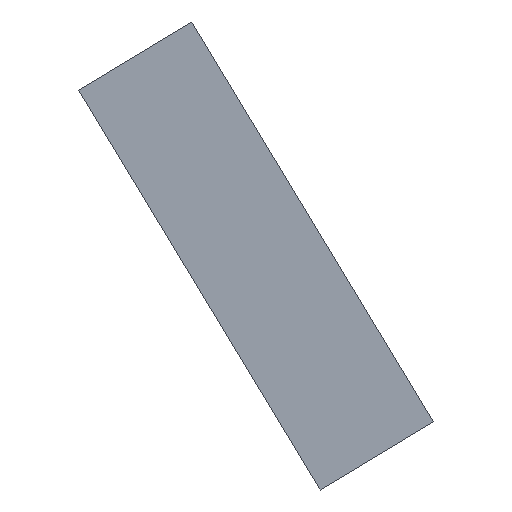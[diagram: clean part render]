
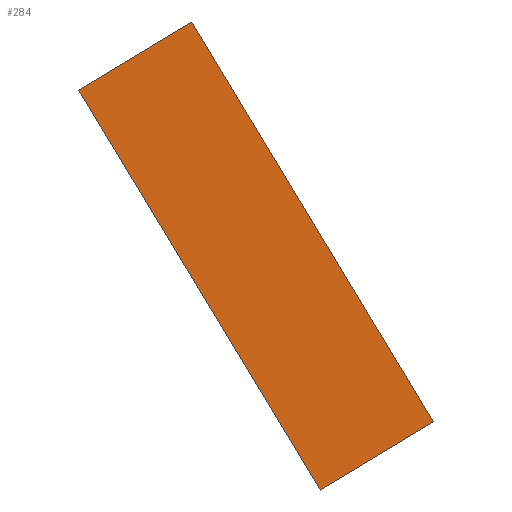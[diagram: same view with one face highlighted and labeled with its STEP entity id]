
A CAD part, left-side view. The second image highlights one B-rep face of the part: STEP entity #284.
In plain terms, the highlighted planar face has unit normal (-1, 0, 0).
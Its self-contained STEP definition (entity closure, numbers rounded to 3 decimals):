
#21 = EDGE_CURVE('',#22,#24,#26,.T.);
#22 = VERTEX_POINT('',#23);
#23 = CARTESIAN_POINT('',(-76.,-955.99,1851.586));
#24 = VERTEX_POINT('',#25);
#25 = CARTESIAN_POINT('',(-76.,-1014.396,1754.851));
#26 = SURFACE_CURVE('',#27,(#31,#43),.PCURVE_S1.);
#27 = LINE('',#28,#29);
#28 = CARTESIAN_POINT('',(-76.,-955.99,1851.586));
#29 = VECTOR('',#30,1.);
#30 = DIRECTION('',(0.,-0.517,-0.856));
#31 = PCURVE('',#32,#37);
#32 = PLANE('',#33);
#33 = AXIS2_PLACEMENT_3D('',#34,#35,#36);
#34 = CARTESIAN_POINT('',(-76.,-955.99,1851.586));
#35 = DIRECTION('',(0.,-0.856,0.517));
#36 = DIRECTION('',(1.,0.,0.));
#37 = DEFINITIONAL_REPRESENTATION('',(#38),#42);
#38 = LINE('',#39,#40);
#39 = CARTESIAN_POINT('',(0.,0.));
#40 = VECTOR('',#41,1.);
#41 = DIRECTION('',(0.,-1.));
#42 = ( GEOMETRIC_REPRESENTATION_CONTEXT(2) 
PARAMETRIC_REPRESENTATION_CONTEXT() REPRESENTATION_CONTEXT('2D SPACE',''
  ) );
#43 = PCURVE('',#44,#49);
#44 = PLANE('',#45);
#45 = AXIS2_PLACEMENT_3D('',#46,#47,#48);
#46 = CARTESIAN_POINT('',(-76.,-983.384,1868.126));
#47 = DIRECTION('',(1.,0.,0.));
#48 = DIRECTION('',(0.,0.856,-0.517));
#49 = DEFINITIONAL_REPRESENTATION('',(#50),#54);
#50 = LINE('',#51,#52);
#51 = CARTESIAN_POINT('',(32.,0.));
#52 = VECTOR('',#53,1.);
#53 = DIRECTION('',(0.,-1.));
#54 = ( GEOMETRIC_REPRESENTATION_CONTEXT(2) 
PARAMETRIC_REPRESENTATION_CONTEXT() REPRESENTATION_CONTEXT('2D SPACE',''
  ) );
#72 = PLANE('',#73);
#73 = AXIS2_PLACEMENT_3D('',#74,#75,#76);
#74 = CARTESIAN_POINT('',(-70.,-1028.093,1763.121));
#75 = DIRECTION('',(-0.,-0.517,-0.856));
#76 = DIRECTION('',(0.,-0.856,0.517));
#126 = PLANE('',#127);
#127 = AXIS2_PLACEMENT_3D('',#128,#129,#130);
#128 = CARTESIAN_POINT('',(-70.,-969.687,1859.856));
#129 = DIRECTION('',(-0.,-0.517,-0.856));
#130 = DIRECTION('',(0.,-0.856,0.517));
#181 = PLANE('',#182);
#182 = AXIS2_PLACEMENT_3D('',#183,#184,#185);
#183 = CARTESIAN_POINT('',(-64.,-983.384,1868.126));
#184 = DIRECTION('',(0.,0.856,-0.517));
#185 = DIRECTION('',(-1.,0.,0.));
#219 = VERTEX_POINT('',#220);
#220 = CARTESIAN_POINT('',(-76.,-1041.79,1771.391)
  );
#241 = EDGE_CURVE('',#242,#219,#244,.T.);
#242 = VERTEX_POINT('',#243);
#243 = CARTESIAN_POINT('',(-76.,-983.384,1868.126));
#244 = SURFACE_CURVE('',#245,(#249,#256),.PCURVE_S1.);
#245 = LINE('',#246,#247);
#246 = CARTESIAN_POINT('',(-76.,-983.384,1868.126));
#247 = VECTOR('',#248,1.);
#248 = DIRECTION('',(0.,-0.517,-0.856));
#249 = PCURVE('',#181,#250);
#250 = DEFINITIONAL_REPRESENTATION('',(#251),#255);
#251 = LINE('',#252,#253);
#252 = CARTESIAN_POINT('',(12.,0.));
#253 = VECTOR('',#254,1.);
#254 = DIRECTION('',(-0.,-1.));
#255 = ( GEOMETRIC_REPRESENTATION_CONTEXT(2) 
PARAMETRIC_REPRESENTATION_CONTEXT() REPRESENTATION_CONTEXT('2D SPACE',''
  ) );
#256 = PCURVE('',#44,#257);
#257 = DEFINITIONAL_REPRESENTATION('',(#258),#262);
#258 = LINE('',#259,#260);
#259 = CARTESIAN_POINT('',(0.,0.));
#260 = VECTOR('',#261,1.);
#261 = DIRECTION('',(0.,-1.));
#262 = ( GEOMETRIC_REPRESENTATION_CONTEXT(2) 
PARAMETRIC_REPRESENTATION_CONTEXT() REPRESENTATION_CONTEXT('2D SPACE',''
  ) );
#284 = ADVANCED_FACE('',(#285),#44,.F.);
#285 = FACE_BOUND('',#286,.F.);
#286 = EDGE_LOOP('',(#287,#288,#309,#310));
#287 = ORIENTED_EDGE('',*,*,#241,.T.);
#288 = ORIENTED_EDGE('',*,*,#289,.T.);
#289 = EDGE_CURVE('',#219,#24,#290,.T.);
#290 = SURFACE_CURVE('',#291,(#295,#302),.PCURVE_S1.);
#291 = LINE('',#292,#293);
#292 = CARTESIAN_POINT('',(-76.,-1041.79,1771.391)
  );
#293 = VECTOR('',#294,1.);
#294 = DIRECTION('',(0.,0.856,-0.517));
#295 = PCURVE('',#44,#296);
#296 = DEFINITIONAL_REPRESENTATION('',(#297),#301);
#297 = LINE('',#298,#299);
#298 = CARTESIAN_POINT('',(0.,-113.));
#299 = VECTOR('',#300,1.);
#300 = DIRECTION('',(1.,0.));
#301 = ( GEOMETRIC_REPRESENTATION_CONTEXT(2) 
PARAMETRIC_REPRESENTATION_CONTEXT() REPRESENTATION_CONTEXT('2D SPACE',''
  ) );
#302 = PCURVE('',#72,#303);
#303 = DEFINITIONAL_REPRESENTATION('',(#304),#308);
#304 = LINE('',#305,#306);
#305 = CARTESIAN_POINT('',(16.,6.));
#306 = VECTOR('',#307,1.);
#307 = DIRECTION('',(-1.,0.));
#308 = ( GEOMETRIC_REPRESENTATION_CONTEXT(2) 
PARAMETRIC_REPRESENTATION_CONTEXT() REPRESENTATION_CONTEXT('2D SPACE',''
  ) );
#309 = ORIENTED_EDGE('',*,*,#21,.F.);
#310 = ORIENTED_EDGE('',*,*,#311,.F.);
#311 = EDGE_CURVE('',#242,#22,#312,.T.);
#312 = SURFACE_CURVE('',#313,(#317,#324),.PCURVE_S1.);
#313 = LINE('',#314,#315);
#314 = CARTESIAN_POINT('',(-76.,-983.384,1868.126));
#315 = VECTOR('',#316,1.);
#316 = DIRECTION('',(0.,0.856,-0.517));
#317 = PCURVE('',#44,#318);
#318 = DEFINITIONAL_REPRESENTATION('',(#319),#323);
#319 = LINE('',#320,#321);
#320 = CARTESIAN_POINT('',(0.,0.));
#321 = VECTOR('',#322,1.);
#322 = DIRECTION('',(1.,0.));
#323 = ( GEOMETRIC_REPRESENTATION_CONTEXT(2) 
PARAMETRIC_REPRESENTATION_CONTEXT() REPRESENTATION_CONTEXT('2D SPACE',''
  ) );
#324 = PCURVE('',#126,#325);
#325 = DEFINITIONAL_REPRESENTATION('',(#326),#330);
#326 = LINE('',#327,#328);
#327 = CARTESIAN_POINT('',(16.,6.));
#328 = VECTOR('',#329,1.);
#329 = DIRECTION('',(-1.,0.));
#330 = ( GEOMETRIC_REPRESENTATION_CONTEXT(2) 
PARAMETRIC_REPRESENTATION_CONTEXT() REPRESENTATION_CONTEXT('2D SPACE',''
  ) );
